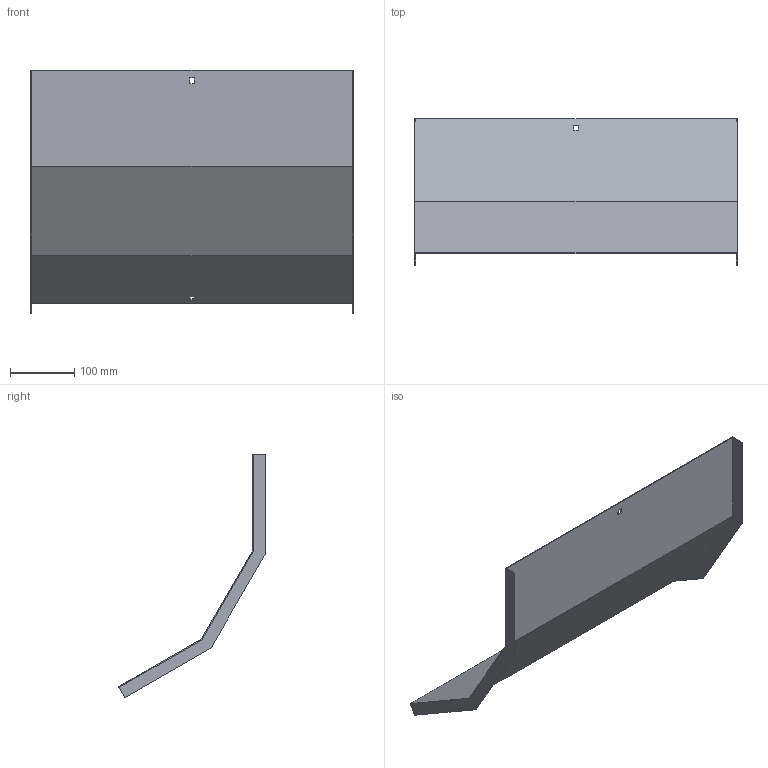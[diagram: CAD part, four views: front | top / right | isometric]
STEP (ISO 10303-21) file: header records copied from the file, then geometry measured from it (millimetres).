
FILE_DESCRIPTION (( 'STEP AP214' ), '1' );
FILE_NAME ('A2X40N3R500X.step', '2025-04-02T08:35:08', ( '' ), ( '' ), 'SwSTEP 2.0', 'SolidWorks 2023', '' );
FILE_SCHEMA (( 'AUTOMOTIVE_DESIGN' ));
Length unit declared in the file: millimetre
Products named in the file (1): A2X40N3R500X
Bounding box: 503 x 229.74 x 380.61 mm (x, y, z)
Volume: 373346.5 mm3; surface area: 500949 mm2
Topology: 1 solids, 1 shells, 26 faces, 72 edges, 48 vertices
Faces by surface type: plane 26
Entity records: 847 total; most frequent: CARTESIAN_POINT 147, ORIENTED_EDGE 144, DIRECTION 126, LINE 72, EDGE_CURVE 72, VECTOR 72, VERTEX_POINT 48, EDGE_LOOP 30
